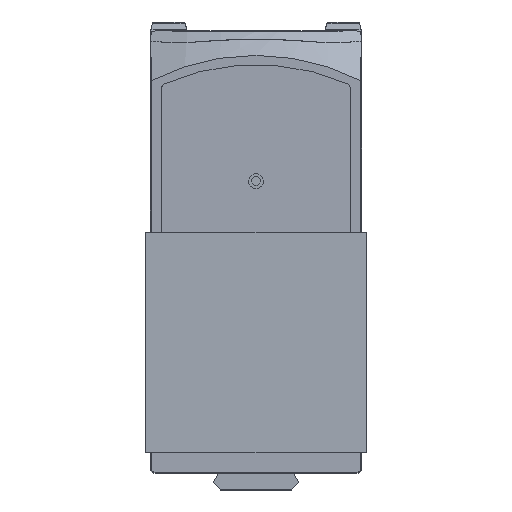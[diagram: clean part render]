
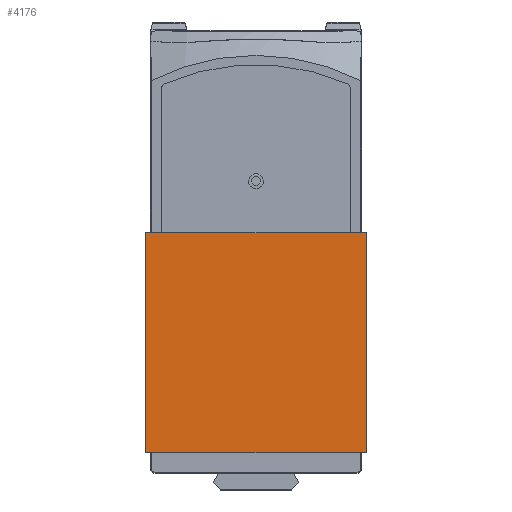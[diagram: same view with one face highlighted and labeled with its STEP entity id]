
A CAD part, top view. The second image highlights one B-rep face of the part: STEP entity #4176.
In plain terms, the highlighted planar face has unit normal (0, 0, 1).
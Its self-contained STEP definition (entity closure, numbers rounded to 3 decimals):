
#512=FACE_OUTER_BOUND('',#765,.T.);
#765=EDGE_LOOP('',(#3472,#3473,#3474,#3475));
#1150=LINE('',#7525,#1532);
#1151=LINE('',#7527,#1533);
#1152=LINE('',#7529,#1534);
#1153=LINE('',#7530,#1535);
#1532=VECTOR('',#5491,10.);
#1533=VECTOR('',#5492,10.);
#1534=VECTOR('',#5493,10.);
#1535=VECTOR('',#5494,10.);
#1874=VERTEX_POINT('',#7523);
#1875=VERTEX_POINT('',#7524);
#1876=VERTEX_POINT('',#7526);
#1877=VERTEX_POINT('',#7528);
#2412=EDGE_CURVE('',#1874,#1875,#1150,.T.);
#2413=EDGE_CURVE('',#1875,#1876,#1151,.T.);
#2414=EDGE_CURVE('',#1876,#1877,#1152,.T.);
#2415=EDGE_CURVE('',#1877,#1874,#1153,.T.);
#3472=ORIENTED_EDGE('',*,*,#2412,.T.);
#3473=ORIENTED_EDGE('',*,*,#2413,.T.);
#3474=ORIENTED_EDGE('',*,*,#2414,.T.);
#3475=ORIENTED_EDGE('',*,*,#2415,.T.);
#3714=PLANE('',#4519);
#4176=ADVANCED_FACE('',(#512),#3714,.T.);
#4519=AXIS2_PLACEMENT_3D('',#7522,#5489,#5490);
#5489=DIRECTION('center_axis',(0.,0.,
1.));
#5490=DIRECTION('ref_axis',(0.,-1.,0.));
#5491=DIRECTION('',(-1.,0.,0.));
#5492=DIRECTION('',(0.,-1.,0.));
#5493=DIRECTION('',(1.,0.,0.));
#5494=DIRECTION('',(0.,1.,0.));
#7522=CARTESIAN_POINT('Origin',(0.,12.8,
805.107));
#7523=CARTESIAN_POINT('',(12.,24.8,805.107));
#7524=CARTESIAN_POINT('',(-12.,24.8,805.107));
#7525=CARTESIAN_POINT('',(-12.,24.8,805.107));
#7526=CARTESIAN_POINT('',(-12.,0.8,805.107));
#7527=CARTESIAN_POINT('',(-12.,0.8,805.107));
#7528=CARTESIAN_POINT('',(12.,0.8,805.107));
#7529=CARTESIAN_POINT('',(12.,0.8,805.107));
#7530=CARTESIAN_POINT('',(12.,24.8,805.107));
